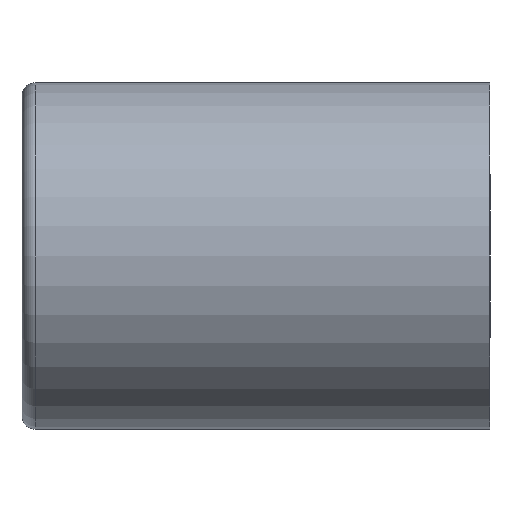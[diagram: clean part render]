
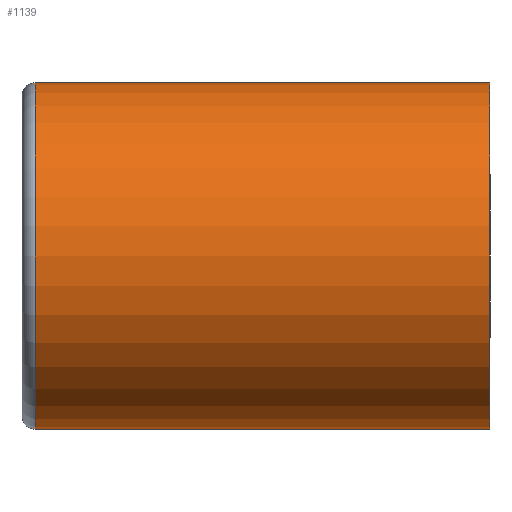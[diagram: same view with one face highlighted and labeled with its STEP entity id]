
A CAD part, front view. The second image highlights one B-rep face of the part: STEP entity #1139.
In plain terms, the highlighted cylindrical face has radius 18.5 mm (diameter 37 mm), a partial arc.
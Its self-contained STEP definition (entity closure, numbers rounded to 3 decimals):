
#21 = VERTEX_POINT ( 'NONE', #769 ) ;
#22 = VERTEX_POINT ( 'NONE', #770 ) ;
#23 = VERTEX_POINT ( 'NONE', #771 ) ;
#24 = VERTEX_POINT ( 'NONE', #772 ) ;
#63 = EDGE_LOOP ( 'NONE', ( #2058, #2059, #2060, #2057 ) ) ;
#769 = CARTESIAN_POINT ( 'NONE',  ( 50., 0., -18.5 ) ) ;
#770 = CARTESIAN_POINT ( 'NONE',  ( 1.4, 0., -18.5 ) ) ;
#771 = CARTESIAN_POINT ( 'NONE',  ( 1.4, 0., 18.5 ) ) ;
#772 = CARTESIAN_POINT ( 'NONE',  ( 50., 0., 18.5 ) ) ;
#995 = CARTESIAN_POINT ( 'NONE',  ( 0., 0., 0. ) ) ;
#996 = DIRECTION ( 'NONE',  ( -1., 0., 0. ) ) ;
#997 = DIRECTION ( 'NONE',  ( 0., 0., 1. ) ) ;
#1139 = ADVANCED_FACE ( 'NONE', ( #1389 ), #1393, .T. ) ;
#1389 = FACE_OUTER_BOUND ( 'NONE', #63, .T. ) ;
#1392 = AXIS2_PLACEMENT_3D ( 'NONE', #995, #996, #997 ) ;
#1393 = CYLINDRICAL_SURFACE ( 'NONE', #1392, 18.5 ) ;
#1738 = EDGE_CURVE ( 'NONE', #21, #22, #2953, .T. ) ;
#1741 = EDGE_CURVE ( 'NONE', #24, #23, #2962, .T. ) ;
#1753 = EDGE_CURVE ( 'NONE', #21, #24, #1946, .T. ) ;
#1762 = EDGE_CURVE ( 'NONE', #23, #22, #1952, .T. ) ;
#1946 = CIRCLE ( 'NONE', #3037, 18.5 ) ;
#1952 = CIRCLE ( 'NONE', #3045, 18.5 ) ;
#2057 = ORIENTED_EDGE ( 'NONE', *, *, #1762, .T. ) ;
#2058 = ORIENTED_EDGE ( 'NONE', *, *, #1738, .F. ) ;
#2059 = ORIENTED_EDGE ( 'NONE', *, *, #1753, .T. ) ;
#2060 = ORIENTED_EDGE ( 'NONE', *, *, #1741, .T. ) ;
#2953 = LINE ( 'NONE', #2954, #3025 ) ;
#2954 = CARTESIAN_POINT ( 'NONE',  ( 0., 0., -18.5 ) ) ;
#2955 = DIRECTION ( 'NONE',  ( -1., 0., 0. ) ) ;
#2962 = LINE ( 'NONE', #2963, #3028 ) ;
#2963 = CARTESIAN_POINT ( 'NONE',  ( 0., 0., 18.5 ) ) ;
#2964 = DIRECTION ( 'NONE',  ( -1., 0., 0. ) ) ;
#3025 = VECTOR ( 'NONE', #2955, 1000. ) ;
#3028 = VECTOR ( 'NONE', #2964, 1000. ) ;
#3037 = AXIS2_PLACEMENT_3D ( 'NONE', #3283, #3290, #3291 ) ;
#3045 = AXIS2_PLACEMENT_3D ( 'NONE', #3316, #3317, #3318 ) ;
#3283 = CARTESIAN_POINT ( 'NONE',  ( 50., 0., 0. ) ) ;
#3290 = DIRECTION ( 'NONE',  ( -1., 0., 0. ) ) ;
#3291 = DIRECTION ( 'NONE',  ( 0., 0., 1. ) ) ;
#3316 = CARTESIAN_POINT ( 'NONE',  ( 1.4, 0., 0. ) ) ;
#3317 = DIRECTION ( 'NONE',  ( 1., 0., 0. ) ) ;
#3318 = DIRECTION ( 'NONE',  ( 0., 0., -1. ) ) ;
